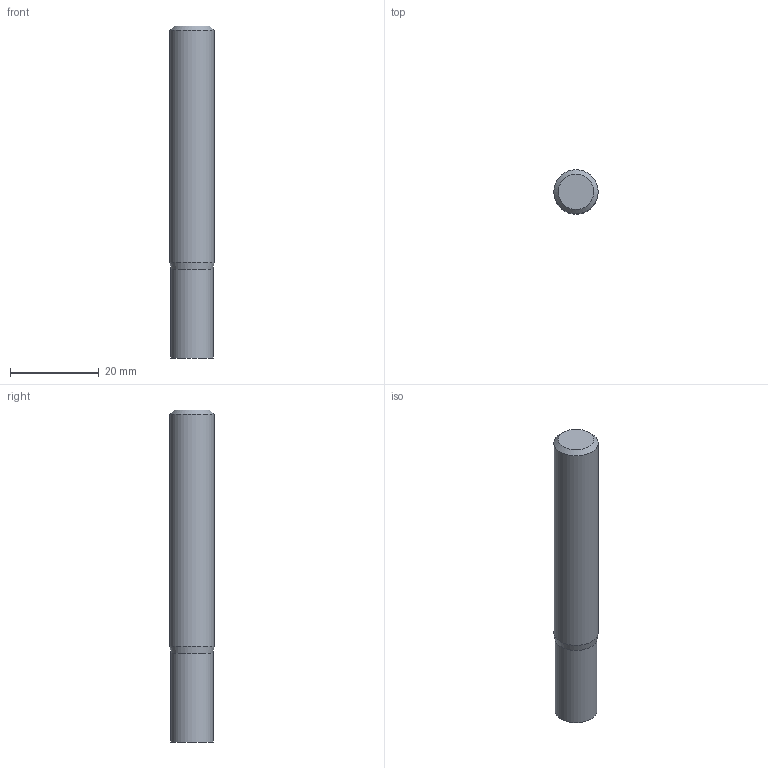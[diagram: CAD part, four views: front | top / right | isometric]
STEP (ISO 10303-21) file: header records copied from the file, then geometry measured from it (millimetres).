
FILE_DESCRIPTION((''),'2;1');
FILE_NAME('C:\Users\nsx150\AppData\Local\Temp\Mastercam 2021\98T1Q6BTT1\TEMP.step','2021-10-21T14:49:56',(''),(''),'STEP Write','Mastercam 2021 ... CNC Software, Inc.','');
FILE_SCHEMA(('AUTOMOTIVE_DESIGN'));
Length unit declared in the file: millimetre
Products named in the file (1): None
Bounding box: 10 x 10 x 75 mm (x, y, z)
Volume: 5716.6 mm3; surface area: 2595.6 mm2
Topology: 2 solids, 2 shells, 8 faces, 10 edges, 6 vertices
Faces by surface type: plane 4, cylinder 2, cone 2
Full cylindrical faces by diameter (mm): 9.5 x1, 10 x1
Entity records: 190 total; most frequent: DIRECTION 32, CARTESIAN_POINT 22, AXIS2_PLACEMENT_3D 16, ORIENTED_EDGE 12, EDGE_LOOP 12, STYLED_ITEM 11, ADVANCED_FACE 8, VERTEX_POINT 6
